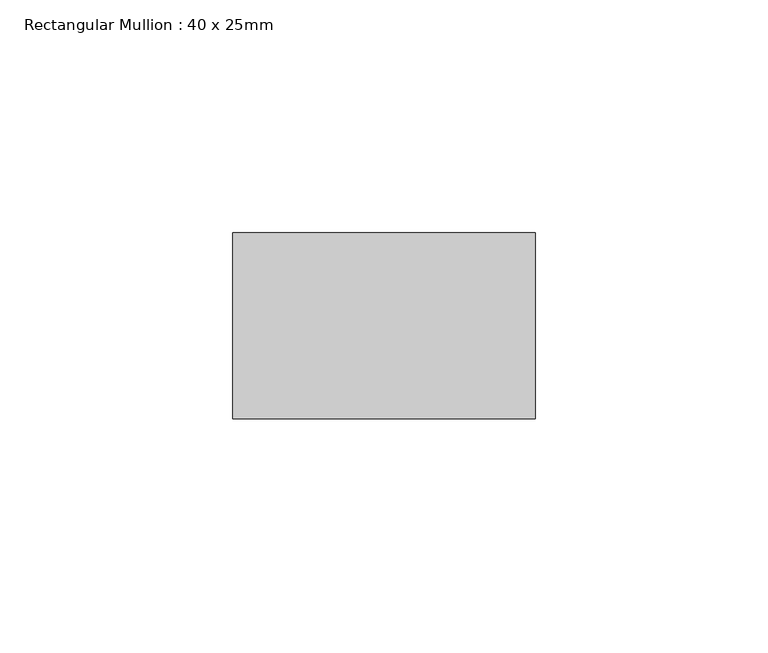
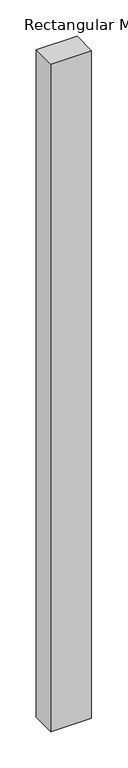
"""IFC4 building model written with IfcOpenShell, lengths in millimetres: member geometry, Rectangular Mullion : 40 x 25mm."""

from ifc_helpers import new_model, si_unit, frame, origin, place, context, project, spatial, polyline, outline, extrude, source, transform, mapped, element, save


def rectangular_mullion_40_x_25mm_1fb8954a(model_context):
    return source(origin(), model_context, "Body", "SweptSolid", [
        extrude(outline(polyline([(40.0, -20.0), (40.0, -60.0), (-25.0, -60.0), (-25.0, -20.0), (40.0, -20.0)])), frame((0.0, 0.0, -1125.0), z_axis=(0.0, 0.0, 1.0), x_axis=(1.0, 0.0, 0.0)), (0.0, 0.0, 1.0), 1125.0),
    ])


if __name__ == "__main__":
    model = new_model("IFC4")
    model_context = context("Model", 3, world=origin())
    ifc_project = project(units=[si_unit("LENGTHUNIT", "METRE", prefix="MILLI")], contexts=[model_context])
    site = spatial("IfcSite", under=ifc_project)
    building = spatial("IfcBuilding", under=site)
    placement = place(None, origin())
    rectangular_mullion_40_x_25mm_shape = rectangular_mullion_40_x_25mm_1fb8954a(model_context)
    element("IfcMember", 1, ObjectType="Rectangular Mullion : 40 x 25mm", at=placement, inside=building, context=model_context, shape_type="MappedRepresentation", body=[
        mapped(rectangular_mullion_40_x_25mm_shape, transform((0.0, 0.0, 0.0), x_axis=(1.0, 0.0, 0.0), y_axis=(0.0, 1.0, 0.0), z_axis=(0.0, 0.0, 1.0))),
    ])
    save(model, "model.ifc")
